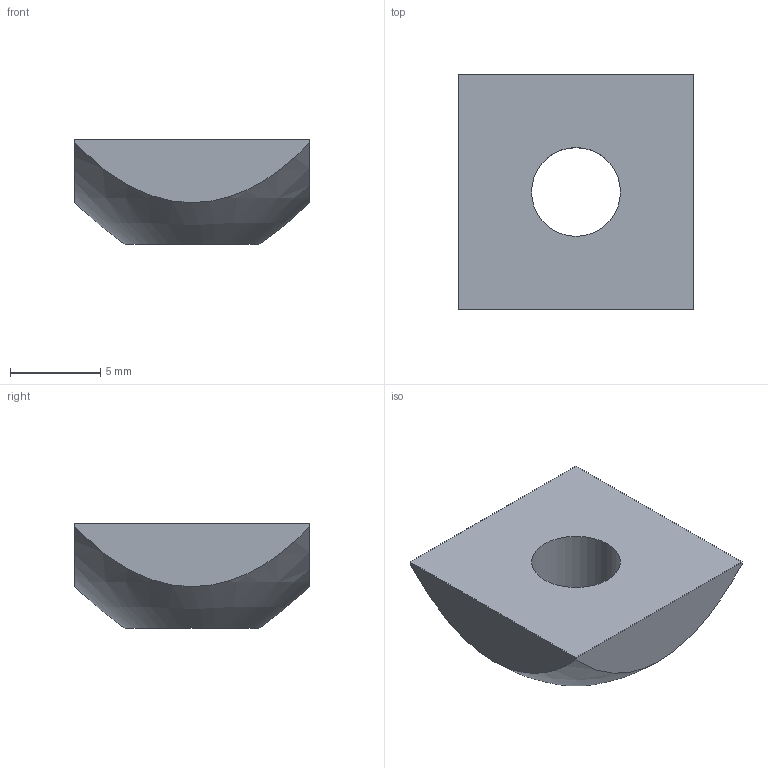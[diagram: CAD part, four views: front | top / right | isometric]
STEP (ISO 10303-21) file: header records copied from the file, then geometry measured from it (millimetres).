
FILE_DESCRIPTION(/* description */ ('Inserto filettato M6'),/* implementation_level */ '2;1');
FILE_NAME(/* name */ 'C:\Users\Stefan.Nesic\Desktop\01010STEP\N13-08-M6.stp',/* time_stamp */ '2022-06-23T11:40:10+02:00',/* author */ (''),/* organization */ (''),/* preprocessor_version */ 'ST-DEVELOPER v18.1',/* originating_system */ 'Autodesk Inventor 2021',/* authorisation */ '');
FILE_SCHEMA (('AUTOMOTIVE_DESIGN { 1 0 10303 214 3 1 1 }'));
Length unit declared in the file: millimetre
Products named in the file (1): DQ32-60
Bounding box: 13 x 13 x 5.8 mm (x, y, z)
Volume: 647.3 mm3; surface area: 560.7 mm2
Topology: 1 solids, 1 shells, 8 faces, 18 edges, 12 vertices
Faces by surface type: plane 6, bspline 1, cylinder 1
Full cylindrical faces by diameter (mm): 4.917 x1
Entity records: 366 total; most frequent: CARTESIAN_POINT 152, ORIENTED_EDGE 36, DIRECTION 31, EDGE_CURVE 18, VERTEX_POINT 12, AXIS2_PLACEMENT_3D 11, EDGE_LOOP 10, LINE 9
